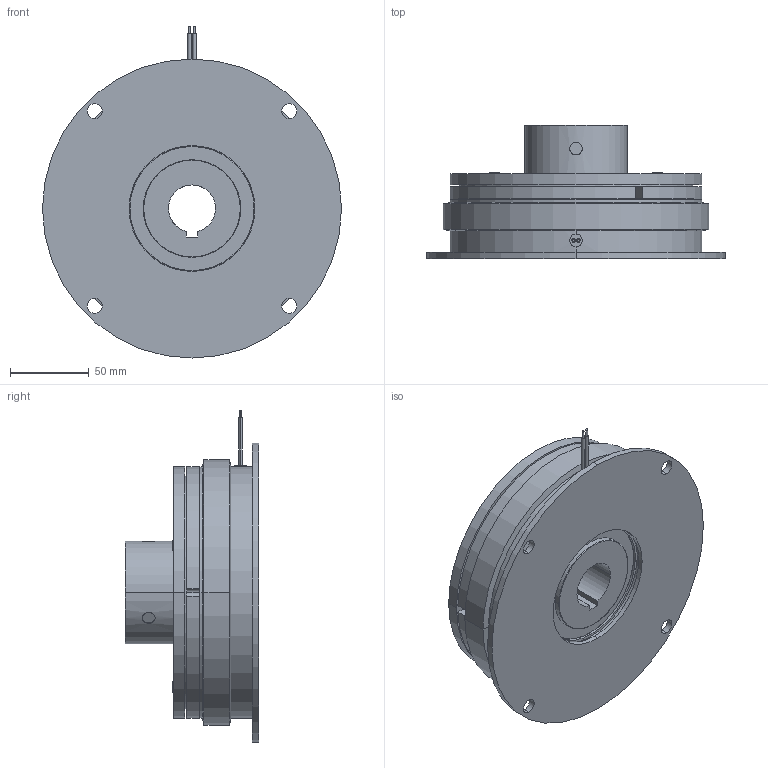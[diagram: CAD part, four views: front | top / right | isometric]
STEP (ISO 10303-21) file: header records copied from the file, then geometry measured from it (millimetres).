
FILE_DESCRIPTION (( 'STEP AP203' ), '1' );
FILE_NAME ('C-M80-F02-30.STEP', '2020-04-06T05:59:11', ( '' ), ( '' ), 'SwSTEP 2.0', 'SolidWorks 2015', '' );
FILE_SCHEMA (( 'CONFIG_CONTROL_DESIGN' ));
Length unit declared in the file: millimetre
Products named in the file (1): C-M80-F02-30
Bounding box: 190 x 84.9 x 211.01 mm (x, y, z)
Volume: 1074667.2 mm3; surface area: 211269.3 mm2
Topology: 3 solids, 3 shells, 329 faces, 727 edges, 456 vertices
Faces by surface type: cylinder 145, plane 125, cone 46, torus 7, sphere 6
Entity records: 9549 total; most frequent: CARTESIAN_POINT 1845, DIRECTION 1756, ORIENTED_EDGE 1454, EDGE_CURVE 727, AXIS2_PLACEMENT_3D 713, VERTEX_POINT 456, EDGE_LOOP 399, CIRCLE 383
